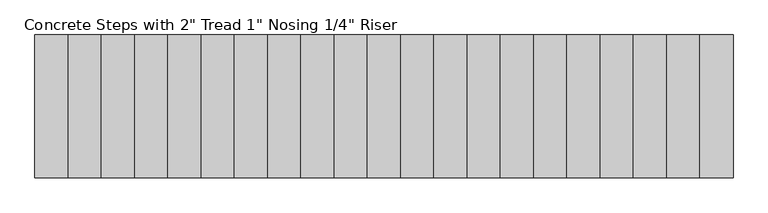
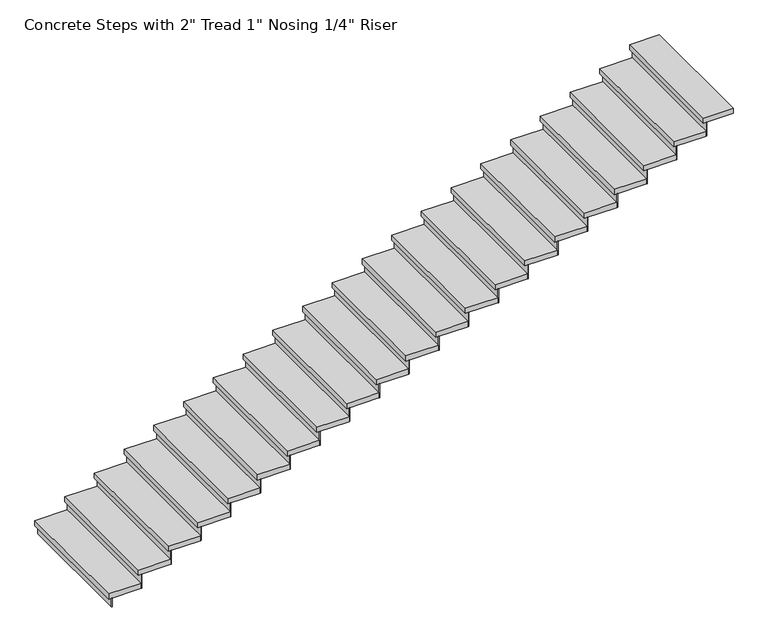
"""IFC4 building model written with IfcOpenShell, lengths in millimetres: stair flight geometry."""

import ifcopenshell
import ifcopenshell.guid

model = None  # the IFC model being written
_history = None  # IfcOwnerHistory: only IFC2X3 demands one
_inside = {}  # id of a spatial element -> (the spatial element, [elements in it])
_under = {}  # id of a project, library or spatial element -> (it, [spatial elements below it])
_declared = {}  # id of a project -> (the project, [libraries it declares])
_typed = {}  # id of a type object -> (the type object, [elements of that type])
_made_of = {}  # id of a material, layer set ... -> (it, [elements and type objects made of it])


def new_model(schema):
    """Start an empty IFC model of exactly this schema.

    Asked for "IFC4X3", IfcOpenShell would pick the latest addendum, in which some entities
    have other attributes; the version numbers below select the first issue.
    IFC2X3 requires an IfcOwnerHistory on every rooted entity: one is made here for all.
    """
    global model, _history
    if schema == "IFC4X3":
        model = ifcopenshell.file(schema_version=(4, 3, 0, 0))
    else:
        model = ifcopenshell.file(schema=schema)
    _inside.clear()
    _under.clear()
    _declared.clear()
    _typed.clear()
    _made_of.clear()
    _history = None
    if model.schema == "IFC2X3":
        org = make("IfcOrganization", Name="unknown")
        user = make(
            "IfcPersonAndOrganization",
            ThePerson=make("IfcPerson", FamilyName="unknown"),
            TheOrganization=org,
        )
        app = make(
            "IfcApplication",
            ApplicationDeveloper=org,
            Version="unknown",
            ApplicationFullName="unknown",
            ApplicationIdentifier="unknown",
        )
        _history = make(
            "IfcOwnerHistory",
            OwningUser=user,
            OwningApplication=app,
            ChangeAction="ADDED",
            CreationDate=0,
        )
    return model


def make(cls, **values):
    """One entity of the class cls with the attributes given. An attribute that is None is left unset."""
    return model.create_entity(
        cls, **{name: value for name, value in values.items() if value is not None}
    )


def rooted(cls, **values):
    """An entity with a GlobalId (a new one), such as an element, a storey or a relation."""
    return make(cls, GlobalId=ifcopenshell.guid.new(), OwnerHistory=_history, **values)


def si_unit(unit_type, name, prefix=None):
    """IfcSIUnit, for example si_unit("LENGTHUNIT", "METRE", prefix="MILLI")."""
    return make("IfcSIUnit", UnitType=unit_type, Prefix=prefix, Name=name)


def assignment(units):
    """IfcUnitAssignment: the units of a project."""
    return None if units is None else make("IfcUnitAssignment", Units=units)


def point(xyz):
    """IfcCartesianPoint."""
    return None if xyz is None else make("IfcCartesianPoint", Coordinates=xyz)


def direction(xyz):
    """IfcDirection."""
    return None if xyz is None else make("IfcDirection", DirectionRatios=xyz)


def frame(location, z_axis=None, x_axis=None):
    """IfcAxis2Placement3D, a coordinate frame: its origin and axes. An axis left out is left unset."""
    return make(
        "IfcAxis2Placement3D",
        Location=point(location),
        Axis=direction(z_axis),
        RefDirection=direction(x_axis),
    )


def origin():
    """The frame at (0, 0, 0) with its axes left unset."""
    return frame((0.0, 0.0, 0.0))


def origin_with_axes():
    """The frame at (0, 0, 0) with the z axis (0, 0, 1) and the x axis (1, 0, 0) written out."""
    return frame((0.0, 0.0, 0.0), z_axis=(0.0, 0.0, 1.0), x_axis=(1.0, 0.0, 0.0))


def place(relative_to, where):
    """IfcLocalPlacement: puts the frame where relative to a parent placement (None: the world)."""
    return make(
        "IfcLocalPlacement", PlacementRelTo=relative_to, RelativePlacement=where
    )


def context(
    kind, dimensions, precision=None, world=None, true_north=None, identifier=None
):
    """IfcGeometricRepresentationContext, for example the 3D "Model" context."""
    return make(
        "IfcGeometricRepresentationContext",
        ContextIdentifier=identifier,
        ContextType=kind,
        CoordinateSpaceDimension=dimensions,
        Precision=precision,
        WorldCoordinateSystem=world,
        TrueNorth=true_north,
    )


def project(units=None, contexts=None):
    """IfcProject with its units and contexts."""
    return rooted(
        "IfcProject",
        Name="project",
        RepresentationContexts=contexts,
        UnitsInContext=assignment(units),
    )


def spatial(cls, under=None, at=None, **own):
    """A site, building, storey or space (cls), placed at a placement, below another one or the project."""
    s = rooted(cls, ObjectPlacement=at, **own)
    if under is not None:
        _under.setdefault(under.id(), (under, []))[1].append(s)
    return s


def polyline(points):
    """IfcPolyline through the points."""
    return make("IfcPolyline", Points=[point(p) for p in points])


def outline(outer, holes=None, kind="AREA"):
    """IfcArbitraryClosedProfileDef: a profile drawn as a closed curve; with holes, ...WithVoids."""
    if holes is None:
        return make("IfcArbitraryClosedProfileDef", ProfileType=kind, OuterCurve=outer)
    return make(
        "IfcArbitraryProfileDefWithVoids",
        ProfileType=kind,
        OuterCurve=outer,
        InnerCurves=holes,
    )


def extrude(swept, where, along, depth):
    """IfcExtrudedAreaSolid: the profile swept, set in the frame where, extruded along a direction by depth."""
    return make(
        "IfcExtrudedAreaSolid",
        SweptArea=swept,
        Position=where,
        ExtrudedDirection=direction(along),
        Depth=depth,
    )


def shape(context_of_items, identifier, shape_type, items):
    """IfcShapeRepresentation: the items that make up one representation, for example the "Body"."""
    return make(
        "IfcShapeRepresentation",
        ContextOfItems=context_of_items,
        RepresentationIdentifier=identifier,
        RepresentationType=shape_type,
        Items=items,
    )


def source(mapping_origin, context_of_items, identifier, shape_type, items):
    """IfcRepresentationMap: a shape defined once, which mapped items show again and again."""
    return make(
        "IfcRepresentationMap",
        MappingOrigin=mapping_origin,
        MappedRepresentation=shape(context_of_items, identifier, shape_type, items),
    )


def transform(
    local_origin,
    x_axis=None,
    y_axis=None,
    z_axis=None,
    scale=None,
    scale2=None,
    scale3=None,
    uniform=True,
):
    """IfcCartesianTransformationOperator3D, or its non-uniform kind. x_axis, y_axis, z_axis: its Axis1, 2, 3."""
    if uniform:
        return make(
            "IfcCartesianTransformationOperator3D",
            Axis1=direction(x_axis),
            Axis2=direction(y_axis),
            LocalOrigin=point(local_origin),
            Scale=scale,
            Axis3=direction(z_axis),
        )
    return make(
        "IfcCartesianTransformationOperator3DnonUniform",
        Axis1=direction(x_axis),
        Axis2=direction(y_axis),
        LocalOrigin=point(local_origin),
        Scale=scale,
        Axis3=direction(z_axis),
        Scale2=scale2,
        Scale3=scale3,
    )


def mapped(mapping_source, mapping_target):
    """IfcMappedItem: shows the shape of a source again, moved by a transform."""
    return make(
        "IfcMappedItem", MappingSource=mapping_source, MappingTarget=mapping_target
    )


def made_of(thing, what):
    """Note that an element or type object is made of a material, layer set ...; save() writes the relation."""
    if what is not None:
        _made_of.setdefault(what.id(), (what, []))[1].append(thing)
    return thing


def element(
    cls,
    number,
    at=None,
    inside=None,
    cuts=None,
    type_object=None,
    material=None,
    context=None,
    identifier="Body",
    shape_type=None,
    held_by="IfcProductDefinitionShape",
    body=None,
    shapes=None,
    **own,
):
    """One element of the class cls, such as IfcWall. Its Tag is "e" and its number.

    at: its placement. inside: the storey or other place that contains it. cuts: it is an
    opening in that element (IfcRelVoidsElement). A single representation is given by context,
    identifier, shape_type and body (its items); several are given by shapes. held_by: the class
    of the entity that holds the representations. save() writes the other relations.
    """
    e = rooted(cls, Tag="e%d" % number, ObjectPlacement=at, **own)
    if body is not None:
        shapes = [shape(context, identifier, shape_type, body)]
    if shapes is not None:
        e.Representation = make(held_by, Representations=shapes)
    if inside is not None:
        _inside.setdefault(inside.id(), (inside, []))[1].append(e)
    if cuts is not None:
        rooted(
            "IfcRelVoidsElement", RelatingBuildingElement=cuts, RelatedOpeningElement=e
        )
    if type_object is not None:
        _typed.setdefault(type_object.id(), (type_object, []))[1].append(e)
    return made_of(e, material)


def aggregate(whole, parts):
    """IfcRelAggregates: a whole, such as a stair, and the parts it consists of."""
    return rooted("IfcRelAggregates", RelatingObject=whole, RelatedObjects=parts)


def save(model, path):
    """Write the relations noted so far, then the file.

    IfcRelAggregates (storeys below a building ...), IfcRelContainedInSpatialStructure (elements
    in a storey), IfcRelDefinesByType, IfcRelAssociatesMaterial and IfcRelDeclares: one each for
    every whole, place, type object, material and project.
    """
    for whole, parts in _under.values():
        aggregate(whole, parts)
    for where, things in _inside.values():
        rooted(
            "IfcRelContainedInSpatialStructure",
            RelatedElements=things,
            RelatingStructure=where,
        )
    for kind, things in _typed.values():
        rooted("IfcRelDefinesByType", RelatedObjects=things, RelatingType=kind)
    for what, things in _made_of.values():
        rooted("IfcRelAssociatesMaterial", RelatedObjects=things, RelatingMaterial=what)
    for by, libraries in _declared.values():
        rooted("IfcRelDeclares", RelatingContext=by, RelatedDefinitions=libraries)
    model.write(path)


def stair_flight_718682c8(model_context):
    return source(origin(), model_context, "Body", "SweptSolid", [
        extrude(outline(polyline([(-38912.5313244, -3862.1362112), (-38918.8813244, -3862.1362112), (-38918.8813244, -2662.1362112), (-38912.5313244, -2662.1362112), (-38912.5313244, -3862.1362112)])), origin_with_axes(), (0.0, 0.0, 1.0), 87.7454545),
        extrude(outline(polyline([(-38639.4813244, -2662.1362112), (-38639.4813244, -3862.1362112), (-38944.2813244, -3862.1362112), (-38944.2813244, -2662.1362112), (-38639.4813244, -2662.1362112)])), frame((0.0, 0.0, 87.7454545), z_axis=(0.0, 0.0, 1.0), x_axis=(1.0, 0.0, 0.0)), (0.0, 0.0, 1.0), 50.8),
        extrude(outline(polyline([(-38633.1313244, -3862.1362112), (-38639.4813244, -3862.1362112), (-38639.4813244, -2662.1362112), (-38633.1313244, -2662.1362112), (-38633.1313244, -3862.1362112)])), frame((0.0, 0.0, 87.7454545), z_axis=(0.0, 0.0, 1.0), x_axis=(1.0, 0.0, 0.0)), (0.0, 0.0, 1.0), 138.5454545),
        extrude(outline(polyline([(-38360.0813244, -2662.1362112), (-38360.0813244, -3862.1362112), (-38664.8813244, -3862.1362112), (-38664.8813244, -2662.1362112), (-38360.0813244, -2662.1362112)])), frame((0.0, 0.0, 226.2909091), z_axis=(0.0, 0.0, 1.0), x_axis=(1.0, 0.0, 0.0)), (0.0, 0.0, 1.0), 50.8),
        extrude(outline(polyline([(-38353.7313244, -3862.1362112), (-38360.0813244, -3862.1362112), (-38360.0813244, -2662.1362112), (-38353.7313244, -2662.1362112), (-38353.7313244, -3862.1362112)])), frame((0.0, 0.0, 226.2909091), z_axis=(0.0, 0.0, 1.0), x_axis=(1.0, 0.0, 0.0)), (0.0, 0.0, 1.0), 138.5454545),
        extrude(outline(polyline([(-38080.6813244, -2662.1362112), (-38080.6813244, -3862.1362112), (-38385.4813244, -3862.1362112), (-38385.4813244, -2662.1362112), (-38080.6813244, -2662.1362112)])), frame((0.0, 0.0, 364.8363636), z_axis=(0.0, 0.0, 1.0), x_axis=(1.0, 0.0, 0.0)), (0.0, 0.0, 1.0), 50.8),
        extrude(outline(polyline([(-38074.3313244, -3862.1362112), (-38080.6813244, -3862.1362112), (-38080.6813244, -2662.1362112), (-38074.3313244, -2662.1362112), (-38074.3313244, -3862.1362112)])), frame((0.0, 0.0, 364.8363636), z_axis=(0.0, 0.0, 1.0), x_axis=(1.0, 0.0, 0.0)), (0.0, 0.0, 1.0), 138.5454545),
        extrude(outline(polyline([(-37801.2813244, -2662.1362112), (-37801.2813244, -3862.1362112), (-38106.0813244, -3862.1362112), (-38106.0813244, -2662.1362112), (-37801.2813244, -2662.1362112)])), frame((0.0, 0.0, 503.3818182), z_axis=(0.0, 0.0, 1.0), x_axis=(1.0, 0.0, 0.0)), (0.0, 0.0, 1.0), 50.8),
        extrude(outline(polyline([(-37794.9313244, -3862.1362112), (-37801.2813244, -3862.1362112), (-37801.2813244, -2662.1362112), (-37794.9313244, -2662.1362112), (-37794.9313244, -3862.1362112)])), frame((0.0, 0.0, 503.3818182), z_axis=(0.0, 0.0, 1.0), x_axis=(1.0, 0.0, 0.0)), (0.0, 0.0, 1.0), 138.5454545),
        extrude(outline(polyline([(-37521.8813244, -2662.1362112), (-37521.8813244, -3862.1362112), (-37826.6813244, -3862.1362112), (-37826.6813244, -2662.1362112), (-37521.8813244, -2662.1362112)])), frame((0.0, 0.0, 641.9272727), z_axis=(0.0, 0.0, 1.0), x_axis=(1.0, 0.0, 0.0)), (0.0, 0.0, 1.0), 50.8),
        extrude(outline(polyline([(-37515.5313244, -3862.1362112), (-37521.8813244, -3862.1362112), (-37521.8813244, -2662.1362112), (-37515.5313244, -2662.1362112), (-37515.5313244, -3862.1362112)])), frame((0.0, 0.0, 641.9272727), z_axis=(0.0, 0.0, 1.0), x_axis=(1.0, 0.0, 0.0)), (0.0, 0.0, 1.0), 138.5454545),
        extrude(outline(polyline([(-37242.4813244, -2662.1362112), (-37242.4813244, -3862.1362112), (-37547.2813244, -3862.1362112), (-37547.2813244, -2662.1362112), (-37242.4813244, -2662.1362112)])), frame((0.0, 0.0, 780.4727273), z_axis=(0.0, 0.0, 1.0), x_axis=(1.0, 0.0, 0.0)), (0.0, 0.0, 1.0), 50.8),
        extrude(outline(polyline([(-37236.1313244, -3862.1362112), (-37242.4813244, -3862.1362112), (-37242.4813244, -2662.1362112), (-37236.1313244, -2662.1362112), (-37236.1313244, -3862.1362112)])), frame((0.0, 0.0, 780.4727273), z_axis=(0.0, 0.0, 1.0), x_axis=(1.0, 0.0, 0.0)), (0.0, 0.0, 1.0), 138.5454545),
        extrude(outline(polyline([(-36963.0813244, -2662.1362112), (-36963.0813244, -3862.1362112), (-37267.8813244, -3862.1362112), (-37267.8813244, -2662.1362112), (-36963.0813244, -2662.1362112)])), frame((0.0, 0.0, 919.0181818), z_axis=(0.0, 0.0, 1.0), x_axis=(1.0, 0.0, 0.0)), (0.0, 0.0, 1.0), 50.8),
        extrude(outline(polyline([(-36956.7313244, -3862.1362112), (-36963.0813244, -3862.1362112), (-36963.0813244, -2662.1362112), (-36956.7313244, -2662.1362112), (-36956.7313244, -3862.1362112)])), frame((0.0, 0.0, 919.0181818), z_axis=(0.0, 0.0, 1.0), x_axis=(1.0, 0.0, 0.0)), (0.0, 0.0, 1.0), 138.5454545),
        extrude(outline(polyline([(-36683.6813244, -2662.1362112), (-36683.6813244, -3862.1362112), (-36988.4813244, -3862.1362112), (-36988.4813244, -2662.1362112), (-36683.6813244, -2662.1362112)])), frame((0.0, 0.0, 1057.5636364), z_axis=(0.0, 0.0, 1.0), x_axis=(1.0, 0.0, 0.0)), (0.0, 0.0, 1.0), 50.8),
        extrude(outline(polyline([(-36677.3313244, -3862.1362112), (-36683.6813244, -3862.1362112), (-36683.6813244, -2662.1362112), (-36677.3313244, -2662.1362112), (-36677.3313244, -3862.1362112)])), frame((0.0, 0.0, 1057.5636364), z_axis=(0.0, 0.0, 1.0), x_axis=(1.0, 0.0, 0.0)), (0.0, 0.0, 1.0), 138.5454545),
        extrude(outline(polyline([(-36404.2813244, -2662.1362112), (-36404.2813244, -3862.1362112), (-36709.0813244, -3862.1362112), (-36709.0813244, -2662.1362112), (-36404.2813244, -2662.1362112)])), frame((0.0, 0.0, 1196.1090909), z_axis=(0.0, 0.0, 1.0), x_axis=(1.0, 0.0, 0.0)), (0.0, 0.0, 1.0), 50.8),
        extrude(outline(polyline([(-36397.9313244, -3862.1362112), (-36404.2813244, -3862.1362112), (-36404.2813244, -2662.1362112), (-36397.9313244, -2662.1362112), (-36397.9313244, -3862.1362112)])), frame((0.0, 0.0, 1196.1090909), z_axis=(0.0, 0.0, 1.0), x_axis=(1.0, 0.0, 0.0)), (0.0, 0.0, 1.0), 138.5454545),
        extrude(outline(polyline([(-36124.8813244, -2662.1362112), (-36124.8813244, -3862.1362112), (-36429.6813244, -3862.1362112), (-36429.6813244, -2662.1362112), (-36124.8813244, -2662.1362112)])), frame((0.0, 0.0, 1334.6545455), z_axis=(0.0, 0.0, 1.0), x_axis=(1.0, 0.0, 0.0)), (0.0, 0.0, 1.0), 50.8),
        extrude(outline(polyline([(-36118.5313244, -3862.1362112), (-36124.8813244, -3862.1362112), (-36124.8813244, -2662.1362112), (-36118.5313244, -2662.1362112), (-36118.5313244, -3862.1362112)])), frame((0.0, 0.0, 1334.6545455), z_axis=(0.0, 0.0, 1.0), x_axis=(1.0, 0.0, 0.0)), (0.0, 0.0, 1.0), 138.5454545),
        extrude(outline(polyline([(-35845.4813244, -2662.1362112), (-35845.4813244, -3862.1362112), (-36150.2813244, -3862.1362112), (-36150.2813244, -2662.1362112), (-35845.4813244, -2662.1362112)])), frame((0.0, 0.0, 1473.2), z_axis=(0.0, 0.0, 1.0), x_axis=(1.0, 0.0, 0.0)), (0.0, 0.0, 1.0), 50.8),
        extrude(outline(polyline([(-35839.1313244, -3862.1362112), (-35845.4813244, -3862.1362112), (-35845.4813244, -2662.1362112), (-35839.1313244, -2662.1362112), (-35839.1313244, -3862.1362112)])), frame((0.0, 0.0, 1473.2), z_axis=(0.0, 0.0, 1.0), x_axis=(1.0, 0.0, 0.0)), (0.0, 0.0, 1.0), 138.5454545),
        extrude(outline(polyline([(-35566.0813244, -2662.1362112), (-35566.0813244, -3862.1362112), (-35870.8813244, -3862.1362112), (-35870.8813244, -2662.1362112), (-35566.0813244, -2662.1362112)])), frame((0.0, 0.0, 1611.7454545), z_axis=(0.0, 0.0, 1.0), x_axis=(1.0, 0.0, 0.0)), (0.0, 0.0, 1.0), 50.8),
        extrude(outline(polyline([(-35559.7313244, -3862.1362112), (-35566.0813244, -3862.1362112), (-35566.0813244, -2662.1362112), (-35559.7313244, -2662.1362112), (-35559.7313244, -3862.1362112)])), frame((0.0, 0.0, 1611.7454545), z_axis=(0.0, 0.0, 1.0), x_axis=(1.0, 0.0, 0.0)), (0.0, 0.0, 1.0), 138.5454545),
        extrude(outline(polyline([(-35286.6813244, -2662.1362112), (-35286.6813244, -3862.1362112), (-35591.4813244, -3862.1362112), (-35591.4813244, -2662.1362112), (-35286.6813244, -2662.1362112)])), frame((0.0, 0.0, 1750.2909091), z_axis=(0.0, 0.0, 1.0), x_axis=(1.0, 0.0, 0.0)), (0.0, 0.0, 1.0), 50.8),
        extrude(outline(polyline([(-35280.3313244, -3862.1362112), (-35286.6813244, -3862.1362112), (-35286.6813244, -2662.1362112), (-35280.3313244, -2662.1362112), (-35280.3313244, -3862.1362112)])), frame((0.0, 0.0, 1750.2909091), z_axis=(0.0, 0.0, 1.0), x_axis=(1.0, 0.0, 0.0)), (0.0, 0.0, 1.0), 138.5454545),
        extrude(outline(polyline([(-35007.2813244, -2662.1362112), (-35007.2813244, -3862.1362112), (-35312.0813244, -3862.1362112), (-35312.0813244, -2662.1362112), (-35007.2813244, -2662.1362112)])), frame((0.0, 0.0, 1888.8363636), z_axis=(0.0, 0.0, 1.0), x_axis=(1.0, 0.0, 0.0)), (0.0, 0.0, 1.0), 50.8),
        extrude(outline(polyline([(-35000.9313244, -3862.1362112), (-35007.2813244, -3862.1362112), (-35007.2813244, -2662.1362112), (-35000.9313244, -2662.1362112), (-35000.9313244, -3862.1362112)])), frame((0.0, 0.0, 1888.8363636), z_axis=(0.0, 0.0, 1.0), x_axis=(1.0, 0.0, 0.0)), (0.0, 0.0, 1.0), 138.5454545),
        extrude(outline(polyline([(-34727.8813244, -2662.1362112), (-34727.8813244, -3862.1362112), (-35032.6813244, -3862.1362112), (-35032.6813244, -2662.1362112), (-34727.8813244, -2662.1362112)])), frame((0.0, 0.0, 2027.3818182), z_axis=(0.0, 0.0, 1.0), x_axis=(1.0, 0.0, 0.0)), (0.0, 0.0, 1.0), 50.8),
        extrude(outline(polyline([(-34721.5313244, -3862.1362112), (-34727.8813244, -3862.1362112), (-34727.8813244, -2662.1362112), (-34721.5313244, -2662.1362112), (-34721.5313244, -3862.1362112)])), frame((0.0, 0.0, 2027.3818182), z_axis=(0.0, 0.0, 1.0), x_axis=(1.0, 0.0, 0.0)), (0.0, 0.0, 1.0), 138.5454545),
        extrude(outline(polyline([(-34448.4813244, -2662.1362112), (-34448.4813244, -3862.1362112), (-34753.2813244, -3862.1362112), (-34753.2813244, -2662.1362112), (-34448.4813244, -2662.1362112)])), frame((0.0, 0.0, 2165.9272727), z_axis=(0.0, 0.0, 1.0), x_axis=(1.0, 0.0, 0.0)), (0.0, 0.0, 1.0), 50.8),
        extrude(outline(polyline([(-34442.1313244, -3862.1362112), (-34448.4813244, -3862.1362112), (-34448.4813244, -2662.1362112), (-34442.1313244, -2662.1362112), (-34442.1313244, -3862.1362112)])), frame((0.0, 0.0, 2165.9272727), z_axis=(0.0, 0.0, 1.0), x_axis=(1.0, 0.0, 0.0)), (0.0, 0.0, 1.0), 138.5454545),
        extrude(outline(polyline([(-34169.0813244, -2662.1362112), (-34169.0813244, -3862.1362112), (-34473.8813244, -3862.1362112), (-34473.8813244, -2662.1362112), (-34169.0813244, -2662.1362112)])), frame((0.0, 0.0, 2304.4727273), z_axis=(0.0, 0.0, 1.0), x_axis=(1.0, 0.0, 0.0)), (0.0, 0.0, 1.0), 50.8),
        extrude(outline(polyline([(-34162.7313244, -3862.1362112), (-34169.0813244, -3862.1362112), (-34169.0813244, -2662.1362112), (-34162.7313244, -2662.1362112), (-34162.7313244, -3862.1362112)])), frame((0.0, 0.0, 2304.4727273), z_axis=(0.0, 0.0, 1.0), x_axis=(1.0, 0.0, 0.0)), (0.0, 0.0, 1.0), 138.5454545),
        extrude(outline(polyline([(-33889.6813244, -2662.1362112), (-33889.6813244, -3862.1362112), (-34194.4813244, -3862.1362112), (-34194.4813244, -2662.1362112), (-33889.6813244, -2662.1362112)])), frame((0.0, 0.0, 2443.0181818), z_axis=(0.0, 0.0, 1.0), x_axis=(1.0, 0.0, 0.0)), (0.0, 0.0, 1.0), 50.8),
        extrude(outline(polyline([(-33883.3313244, -3862.1362112), (-33889.6813244, -3862.1362112), (-33889.6813244, -2662.1362112), (-33883.3313244, -2662.1362112), (-33883.3313244, -3862.1362112)])), frame((0.0, 0.0, 2443.0181818), z_axis=(0.0, 0.0, 1.0), x_axis=(1.0, 0.0, 0.0)), (0.0, 0.0, 1.0), 138.5454545),
        extrude(outline(polyline([(-33610.2813244, -2662.1362112), (-33610.2813244, -3862.1362112), (-33915.0813244, -3862.1362112), (-33915.0813244, -2662.1362112), (-33610.2813244, -2662.1362112)])), frame((0.0, 0.0, 2581.5636364), z_axis=(0.0, 0.0, 1.0), x_axis=(1.0, 0.0, 0.0)), (0.0, 0.0, 1.0), 50.8),
        extrude(outline(polyline([(-33603.9313244, -3862.1362112), (-33610.2813244, -3862.1362112), (-33610.2813244, -2662.1362112), (-33603.9313244, -2662.1362112), (-33603.9313244, -3862.1362112)])), frame((0.0, 0.0, 2581.5636364), z_axis=(0.0, 0.0, 1.0), x_axis=(1.0, 0.0, 0.0)), (0.0, 0.0, 1.0), 138.5454545),
        extrude(outline(polyline([(-33330.8813244, -2662.1362112), (-33330.8813244, -3862.1362112), (-33635.6813244, -3862.1362112), (-33635.6813244, -2662.1362112), (-33330.8813244, -2662.1362112)])), frame((0.0, 0.0, 2720.1090909), z_axis=(0.0, 0.0, 1.0), x_axis=(1.0, 0.0, 0.0)), (0.0, 0.0, 1.0), 50.8),
        extrude(outline(polyline([(-33324.5313244, -3862.1362112), (-33330.8813244, -3862.1362112), (-33330.8813244, -2662.1362112), (-33324.5313244, -2662.1362112), (-33324.5313244, -3862.1362112)])), frame((0.0, 0.0, 2720.1090909), z_axis=(0.0, 0.0, 1.0), x_axis=(1.0, 0.0, 0.0)), (0.0, 0.0, 1.0), 138.5454545),
        extrude(outline(polyline([(-33076.8813244, -2662.1362112), (-33076.8813244, -3862.1362112), (-33356.2813244, -3862.1362112), (-33356.2813244, -2662.1362112), (-33076.8813244, -2662.1362112)])), frame((0.0, 0.0, 2858.6545455), z_axis=(0.0, 0.0, 1.0), x_axis=(1.0, 0.0, 0.0)), (0.0, 0.0, 1.0), 50.8),
    ])


if __name__ == "__main__":
    model = new_model("IFC4")
    model_context = context("Model", 3, world=origin())
    ifc_project = project(units=[si_unit("LENGTHUNIT", "METRE", prefix="MILLI")], contexts=[model_context])
    site = spatial("IfcSite", under=ifc_project)
    building = spatial("IfcBuilding", under=site)
    placement = place(None, origin())
    stair_flight_shape = stair_flight_718682c8(model_context)
    element("IfcStairFlight", 1, ObjectType="Concrete Steps with 2\" Tread 1\" Nosing 1/4\" Riser", at=placement, inside=building, context=model_context, shape_type="MappedRepresentation", body=[
        mapped(stair_flight_shape, transform((0.0, 0.0, 0.0), x_axis=(1.0, 0.0, 0.0), y_axis=(0.0, 1.0, 0.0), z_axis=(0.0, 0.0, 1.0))),
    ])
    save(model, "model.ifc")
